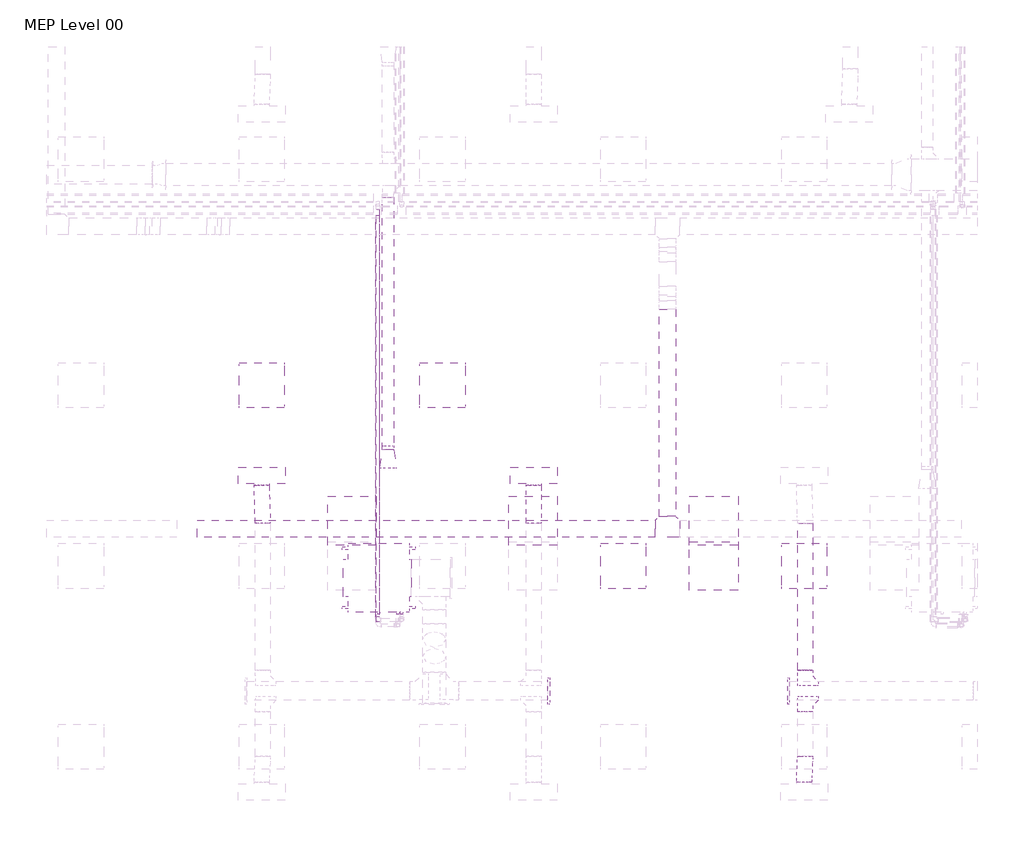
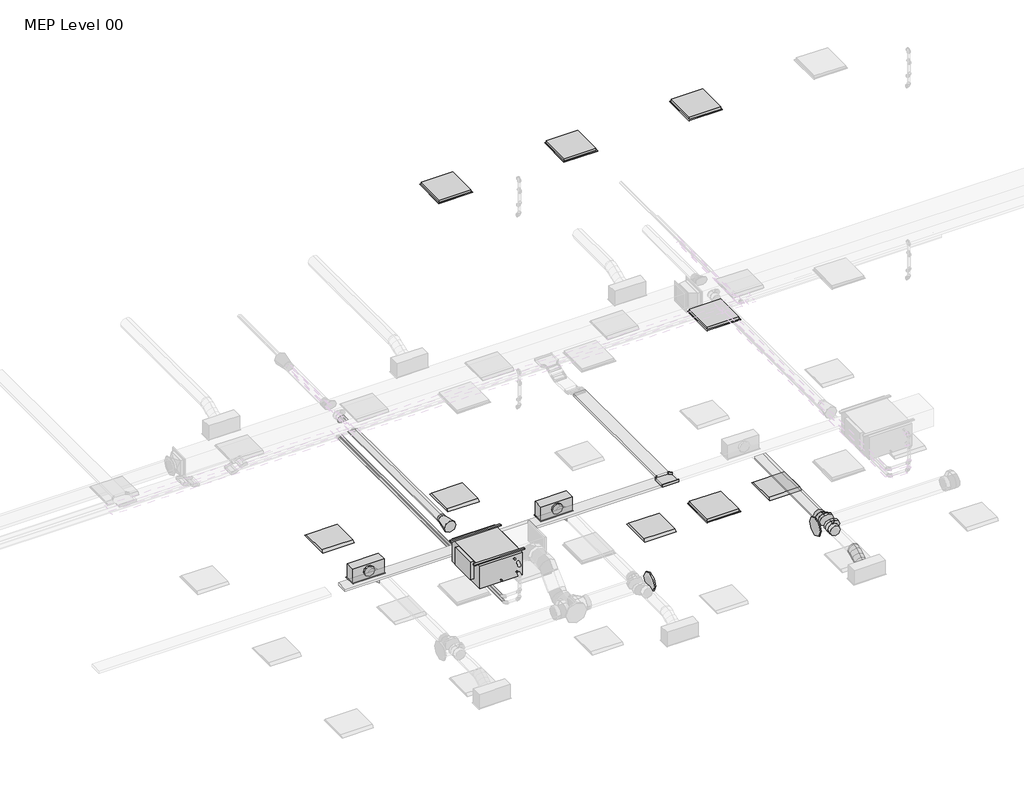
# One storey, part 9 of 33: 8 air terminals, 5 duct segments, 4 duct fittings, 4 light fixtures, 2 cable carrier segments, 2 pipe segments, 1 cable carrier fitting, 1 proxy.
"""IFC4 building model written with IfcOpenShell, lengths in millimetres."""

from ifc_helpers import new_model, si_unit, point, frame, frame_2d, origin, place, context, project, spatial, polyline, circle_curve, ellipse_curve, trimmed, segment, composite_curve, outline, extrude, transform, mapped, element, save
from ifc_brep_helpers import plane_surface, cylinder_surface, advanced_brep
from components import air_terminal_0d1c431e, return_grille_rectangular_hosted_standard_7b12617c, supply_diffuser_with_plenum_linear_slot_hosted_8c379eed, fan_coil_unit_ceiling_ducted_chw_376_lps_48d57206, cable_tray_horizontal_tee_standard_d76b5e15, dw144_round_blank_end_standard_9aa061e7, dw144_round_shoe_branch_slip_joint_standard_15a2edd8, light_fixture_600x600_230_1c7c1157, light_fixture_600x600_230_b730b5ca

model = new_model("IFC4")

# Units and contexts
model_context = context("Model", 3, world=origin())
ifc_project = project(units=[si_unit("LENGTHUNIT", "METRE", prefix="MILLI")], contexts=[model_context])

# Site, building, storey
site = spatial("IfcSite", under=ifc_project)
building = spatial("IfcBuilding", under=site)
storey = spatial("IfcBuildingStorey", under=building, Name="MEP Level 00", Elevation=0.0)

# Air terminals
placement = place(None, origin())
air_terminal_shape = air_terminal_0d1c431e(model_context)
element("IfcAirTerminal", 1, ObjectType="Supply_Bell_Mouth_Grille : Supply_Bell_Mouth_Grille", at=placement, inside=storey, context=model_context, shape_type="MappedRepresentation", body=[
    mapped(air_terminal_shape, transform((18039.0080407, 5510.2561435, 3135.0), x_axis=(0.0, -1.0, 0.0), y_axis=(1.0, 0.0, 0.0), z_axis=(0.0, 0.0, 1.0))),
])
return_grille_rectangular_hosted_standard_shape = return_grille_rectangular_hosted_standard_7b12617c(model_context)
element("IfcAirTerminal", 2, ObjectType="Return Grille - Rectangular - Hosted : Standard", at=placement, inside=storey, context=model_context, shape_type="MappedRepresentation", body=[
    mapped(return_grille_rectangular_hosted_standard_shape, transform((22362.2000027, 3963.2000004, 2800.0), x_axis=(0.0, -1.0, 0.0), y_axis=(-1.0, 0.0, 0.0), z_axis=(0.0, 0.0, -1.0))),
])
element("IfcAirTerminal", 3, ObjectType="Return Grille - Rectangular - Hosted : Standard", at=placement, inside=storey, context=model_context, shape_type="MappedRepresentation", body=[
    mapped(return_grille_rectangular_hosted_standard_shape, transform((22362.2000027, 3963.2000004, 6700.0), x_axis=(0.0, -1.0, 0.0), y_axis=(-1.0, 0.0, 0.0), z_axis=(0.0, 0.0, -1.0))),
])
element("IfcAirTerminal", 4, ObjectType="Return Grille - Rectangular - Hosted : Standard", at=placement, inside=storey, context=model_context, shape_type="MappedRepresentation", body=[
    mapped(return_grille_rectangular_hosted_standard_shape, transform((17562.2000027, 4563.2000004, 10600.0), x_axis=(1.0, 0.0, 0.0), y_axis=(0.0, -1.0, 0.0), z_axis=(0.0, 0.0, -1.0))),
])
element("IfcAirTerminal", 5, ObjectType="Return Grille - Rectangular - Hosted : Standard", at=placement, inside=storey, context=model_context, shape_type="MappedRepresentation", body=[
    mapped(return_grille_rectangular_hosted_standard_shape, transform((19962.2000027, 4563.2000004, 10600.0), x_axis=(1.0, 0.0, 0.0), y_axis=(0.0, -1.0, 0.0), z_axis=(0.0, 0.0, -1.0))),
])
element("IfcAirTerminal", 6, ObjectType="Return Grille - Rectangular - Hosted : Standard", at=placement, inside=storey, context=model_context, shape_type="MappedRepresentation", body=[
    mapped(return_grille_rectangular_hosted_standard_shape, transform((22362.2000027, 4563.2000004, 10600.0), x_axis=(0.0, -1.0, 0.0), y_axis=(-1.0, 0.0, 0.0), z_axis=(0.0, 0.0, -1.0))),
])
supply_diffuser_with_plenum_linear_slot_hosted_shape = supply_diffuser_with_plenum_linear_slot_hosted_8c379eed(model_context)
element("IfcAirTerminal", 7, ObjectType="Supply Diffuser with Plenum - Linear Slot - Hosted : 600mmx193.8mm-200 In Inlet  4-Slot", at=placement, inside=storey, context=model_context, shape_type="MappedRepresentation", body=[
    mapped(supply_diffuser_with_plenum_linear_slot_hosted_shape, transform((16362.2000027, 5163.2000004, 2800.0), x_axis=(-1.0, 0.0, 0.0), y_axis=(0.0, 1.0, 0.0), z_axis=(0.0, 0.0, -1.0))),
])
element("IfcAirTerminal", 8, ObjectType="Supply Diffuser with Plenum - Linear Slot - Hosted : 600mmx193.8mm-200 In Inlet  4-Slot", at=placement, inside=storey, context=model_context, shape_type="MappedRepresentation", body=[
    mapped(supply_diffuser_with_plenum_linear_slot_hosted_shape, transform((19973.9000022, 5163.2000004, 2800.0), x_axis=(-1.0, 0.0, 0.0), y_axis=(0.0, 1.0, 0.0), z_axis=(0.0, 0.0, -1.0))),
])

# Proxy
fan_coil_unit_ceiling_ducted_chw_376_lps_shape = fan_coil_unit_ceiling_ducted_chw_376_lps_48d57206(model_context)
element("IfcBuildingElementProxy", 9, Name="Fan Coil Unit - Ceiling Ducted - CHW : 376 LPS", ObjectType="Fan Coil Unit - Ceiling Ducted - CHW : 376 LPS", at=placement, inside=storey, context=model_context, shape_type="MappedRepresentation", body=[
    mapped(fan_coil_unit_ceiling_ducted_chw_376_lps_shape, transform((18321.2561025, 4263.2000004, 3222.3911538), x_axis=(0.0, -1.0, 0.0), y_axis=(1.0, 0.0, 0.0), z_axis=(0.0, 0.0, 1.0))),
])

# Cable carrier fitting
cable_tray_horizontal_tee_standard_shape = cable_tray_horizontal_tee_standard_d76b5e15(model_context)
element("IfcCableCarrierFitting", 10, ObjectType="Cable Tray Horizontal Tee : Standard", at=placement, inside=storey, context=model_context, shape_type="MappedRepresentation", body=[
    mapped(cable_tray_horizontal_tee_standard_shape, transform((21747.5028601, 4459.9103775, 3275.0), x_axis=(-1.0, 0.0, 0.0), y_axis=(0.0, -1.0, 0.0), z_axis=(0.0, 0.0, 1.0))),
])

# Cable carrier segments
element("IfcCableCarrierSegment", 11, ObjectType="Perforated Cable Tray", at=placement, inside=storey, context=model_context, shape_type="SweptSolid", body=[
    extrude(outline(polyline([(21585.0028601, 4572.4103775), (21585.0028601, 4347.4103775), (15505.0028601, 4347.4103775), (15505.0028601, 4572.4103775), (21585.0028601, 4572.4103775)])), frame((0.0, 0.0, 3250.0), z_axis=(0.0, 0.0, 1.0), x_axis=(1.0, 0.0, 0.0)), (0.0, 0.0, 1.0), 50.0),
])
element("IfcCableCarrierSegment", 12, ObjectType="Perforated Cable Tray", at=placement, inside=storey, context=model_context, shape_type="SweptSolid", body=[
    extrude(outline(polyline([(21635.0028601, 7370.2703489), (21860.0028601, 7370.2703489), (21860.0028601, 4622.4103775), (21635.0028601, 4622.4103775), (21635.0028601, 7370.2703489)])), frame((0.0, 0.0, 3250.0), z_axis=(0.0, 0.0, 1.0), x_axis=(1.0, 0.0, 0.0)), (0.0, 0.0, 1.0), 50.0),
])

# Duct fittings
dw144_round_blank_end_standard_shape = dw144_round_blank_end_standard_9aa061e7(model_context)
element("IfcDuctFitting", 13, ObjectType="DW144 Round Blank End : Standard", at=placement, inside=storey, context=model_context, shape_type="MappedRepresentation", body=[
    mapped(dw144_round_blank_end_standard_shape, transform((20161.4561025, 2306.5018192, 3072.2088531), x_axis=(1.0, 0.0, 0.0), y_axis=(0.0, 1.0, 0.0), z_axis=(0.0, 0.0, 1.0))),
])
element("IfcDuctFitting", 14, ObjectType="DW144 Round Blank End : Standard", at=placement, inside=storey, context=model_context, shape_type="MappedRepresentation", body=[
    mapped(dw144_round_blank_end_standard_shape, transform((23361.4561025, 2306.5018192, 3072.2088531), x_axis=(-1.0, 0.0, 0.0), y_axis=(0.0, -1.0, 0.0), z_axis=(0.0, 0.0, 1.0))),
])
dw144_round_shoe_branch_slip_joint_standard_shape = dw144_round_shoe_branch_slip_joint_standard_15a2edd8(model_context)
element("IfcDuctFitting", 15, ObjectType="DW144 Round Shoe Branch - Slip Joint : Standard", at=placement, inside=storey, context=model_context, shape_type="MappedRepresentation", body=[
    mapped(dw144_round_shoe_branch_slip_joint_standard_shape, transform((23573.9000022, 2181.5018192, 3072.2088531), x_axis=(0.0, -1.0, 0.0), y_axis=(-1.0, 0.0, 0.0), z_axis=(0.0, 0.0, -1.0))),
])
element("IfcDuctFitting", 16, ObjectType="DW144 Round Shoe Branch - Slip Joint : Standard", at=placement, inside=storey, context=model_context, shape_type="MappedRepresentation", body=[
    mapped(dw144_round_shoe_branch_slip_joint_standard_shape, transform((23573.9000022, 2431.5018192, 3072.2088531), x_axis=(0.0, 1.0, 0.0), y_axis=(-1.0, 0.0, 0.0), z_axis=(0.0, 0.0, 1.0))),
])

# Duct segments
element("IfcDuctSegment", 17, ObjectType="DW144 Segmented Bend / Shoe Branch", at=placement, inside=storey, context=model_context, shape_type="SweptSolid", body=[
    extrude(outline(composite_curve([segment(trimmed(circle_curve(frame_2d((3072.2088531, 23573.9000022)), 100.0), [point((3072.2088531, 23673.9000022))], [point((3172.2088531, 23573.9000022))], False, "CARTESIAN"), True, "CONTINUOUS"), segment(trimmed(circle_curve(frame_2d((3072.2088531, 23573.9000022)), 100.0), [point((3172.2088531, 23573.9000022))], [point((3072.2088531, 23473.9000022))], False, "CARTESIAN"), True, "CONTINUOUS"), segment(trimmed(circle_curve(frame_2d((3072.2088531, 23573.9000022)), 100.0), [point((3072.2088531, 23473.9000022))], [point((2972.2088531, 23573.9000022))], False, "CARTESIAN"), True, "CONTINUOUS"), segment(trimmed(circle_curve(frame_2d((3072.2088531, 23573.9000022)), 100.0), [point((2972.2088531, 23573.9000022))], [point((3072.2088531, 23673.9000022))], False, "CARTESIAN"), True, "CONTINUOUS")], self_intersect=False)), frame((0.0, 2581.5018192, 0.0), z_axis=(0.0, 1.0, 0.0), x_axis=(0.0, 0.0, 1.0)), (0.0, 0.0, 1.0), 1950.0),
])
element("IfcDuctSegment", 18, ObjectType="DW144 Segmented Bend / Shoe Branch", at=placement, inside=storey, context=model_context, shape_type="SweptSolid", body=[
    extrude(outline(composite_curve([segment(trimmed(circle_curve(frame_2d((3135.0, 18039.0080407)), 75.0), [point((3135.0, 17964.0080407))], [point((3060.0, 18039.0080407))], False, "CARTESIAN"), True, "CONTINUOUS"), segment(trimmed(circle_curve(frame_2d((3135.0, 18039.0080407)), 75.0), [point((3060.0, 18039.0080407))], [point((3135.0, 18114.0080407))], False, "CARTESIAN"), True, "CONTINUOUS"), segment(trimmed(circle_curve(frame_2d((3135.0, 18039.0080407)), 75.0), [point((3135.0, 18114.0080407))], [point((3210.0, 18039.0080407))], False, "CARTESIAN"), True, "CONTINUOUS"), segment(trimmed(circle_curve(frame_2d((3135.0, 18039.0080407)), 75.0), [point((3210.0, 18039.0080407))], [point((3135.0, 17964.0080407))], False, "CARTESIAN"), True, "CONTINUOUS")], self_intersect=False)), frame((0.0, 5510.2561435, 0.0), z_axis=(0.0, 1.0, 0.0), x_axis=(0.0, 0.0, 1.0)), (0.0, 0.0, 1.0), 3349.1601689),
])
element("IfcDuctSegment", 19, ObjectType="Flex - Round", at=placement, inside=storey, context=model_context, shape_type="AdvancedBrep", body=[
    advanced_brep(
    [(16273.9000022, 4531.5018192, 3072.2088531), (16373.9000022, 4531.5018192, 2972.2088531), (16473.9000022, 4531.5018192, 3072.2088531), (16373.9000022, 4531.5018192, 3172.2088531), (16273.9000022, 4545.0398748, 3072.2088531), (16373.9000022, 4537.729612, 2972.2088531), (16473.9000022, 4546.6519942, 3072.2088531), (16373.9000022, 4553.962257, 3172.2088531), (16262.2000027, 5034.3000004, 2954.4), (16362.2000027, 5034.3000004, 3054.4), (16462.2000027, 5034.3000004, 2954.4), (16362.2000027, 5034.3000004, 2854.4), (16272.0969471, 4656.1396088, 3054.0536514), (16372.3243089, 4634.8198875, 2956.3429867), (16472.0468075, 4660.8412095, 3053.5487883), (16371.8194457, 4682.1609309, 3151.2594529), (16268.0984043, 4779.8283707, 3013.7917909), (16368.5373668, 4751.9631047, 2918.2117629), (16468.0016006, 4785.9734489, 3012.8170622), (16367.5626381, 4813.8387149, 3108.3970903), (16264.0531974, 4904.9606101, 2973.0600649), (16364.2805591, 4883.6408888, 2875.3494002), (16464.0030578, 4909.6622108, 2972.5552017), (16363.775696, 4930.9819322, 3070.2658664), (16262.2000027, 5019.1498254, 2954.4), (16362.2000027, 5011.8395627, 2854.4), (16462.2000027, 5020.7619448, 2954.4), (16362.2000027, 5028.0722076, 3054.4)],
    [
        (0, 1, circle_curve(frame((16373.9000022, 4531.5018192, 3072.2088531), z_axis=(0.0, -1.0, 0.0), x_axis=(-1.0, 0.0, 0.0)), 100.0)),
        (1, 2, circle_curve(frame((16373.9000022, 4531.5018192, 3072.2088531), z_axis=(0.0, -1.0, 0.0), x_axis=(-1.0, 0.0, 0.0)), 100.0)),
        (2, 3, circle_curve(frame((16373.9000022, 4531.5018192, 3072.2088531), z_axis=(0.0, -1.0, 0.0), x_axis=(-1.0, 0.0, 0.0)), 100.0)),
        (3, 0, circle_curve(frame((16373.9000022, 4531.5018192, 3072.2088531), z_axis=(0.0, -1.0, 0.0), x_axis=(-1.0, 0.0, 0.0)), 100.0)),
        (0, 4),
        (4, 5, ellipse_curve(frame((16373.9000022, 4545.8459345, 3072.2088531), z_axis=(0.008033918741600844, -0.9966902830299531, 0.08089459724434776), x_axis=(-0.09850014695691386, -0.08129255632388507, -0.9918110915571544)), 100.3320708, 100.0)),
        (5, 1),
        (5, 6, ellipse_curve(frame((16373.9000022, 4545.8459345, 3072.2088531), z_axis=(0.008033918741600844, -0.9966902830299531, 0.08089459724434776), x_axis=(-0.09850014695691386, -0.08129255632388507, -0.9918110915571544)), 100.3320708, 100.0)),
        (6, 2),
        (6, 7, ellipse_curve(frame((16373.9000022, 4545.8459345, 3072.2088531), z_axis=(0.008033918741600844, -0.9966902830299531, 0.08089459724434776), x_axis=(-0.09850014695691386, -0.08129255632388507, -0.9918110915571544)), 100.3320708, 100.0)),
        (7, 3),
        (7, 4, ellipse_curve(frame((16373.9000022, 4545.8459345, 3072.2088531), z_axis=(0.008033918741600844, -0.9966902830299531, 0.08089459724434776), x_axis=(-0.09850014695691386, -0.08129255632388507, -0.9918110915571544)), 100.3320708, 100.0)),
        (8, 9, circle_curve(frame((16362.2000027, 5034.3000004, 2954.4), z_axis=(0.0, 1.0, 0.0), x_axis=(-1.0, 0.0, 0.0)), 100.0)),
        (9, 10, circle_curve(frame((16362.2000027, 5034.3000004, 2954.4), z_axis=(0.0, 1.0, 0.0), x_axis=(-1.0, 0.0, 0.0)), 100.0)),
        (10, 11, circle_curve(frame((16362.2000027, 5034.3000004, 2954.4), z_axis=(0.0, 1.0, 0.0), x_axis=(-1.0, 0.0, 0.0)), 100.0)),
        (11, 8, circle_curve(frame((16362.2000027, 5034.3000004, 2954.4), z_axis=(0.0, 1.0, 0.0), x_axis=(-1.0, 0.0, 0.0)), 100.0)),
        (4, 12),
        (12, 13, ellipse_curve(frame((16372.0718773, 4658.4904092, 3053.8012198), z_axis=(0.023438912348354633, -0.9714680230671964, 0.23600952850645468), x_axis=(-0.09600750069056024, -0.237170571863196, -0.9667123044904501)), 100.2947714, 100.0)),
        (13, 5),
        (13, 14, ellipse_curve(frame((16372.0718773, 4658.4904092, 3053.8012198), z_axis=(0.023438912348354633, -0.9714680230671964, 0.23600952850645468), x_axis=(-0.09600750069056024, -0.237170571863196, -0.9667123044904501)), 100.2947714, 100.0)),
        (14, 6),
        (14, 15, ellipse_curve(frame((16372.0718773, 4658.4904092, 3053.8012198), z_axis=(0.023438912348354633, -0.9714680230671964, 0.23600952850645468), x_axis=(-0.09600750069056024, -0.237170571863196, -0.9667123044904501)), 100.2947714, 100.0)),
        (15, 7),
        (15, 12, ellipse_curve(frame((16372.0718773, 4658.4904092, 3053.8012198), z_axis=(0.023438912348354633, -0.9714680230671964, 0.23600952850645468), x_axis=(-0.09600750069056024, -0.237170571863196, -0.9667123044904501)), 100.2947714, 100.0)),
        (12, 16),
        (16, 17, circle_curve(frame((16368.0500024, 4782.9009098, 3013.3044266), z_axis=(0.03072539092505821, -0.9504426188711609, 0.3093780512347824), x_axis=(-0.999515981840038, -0.030725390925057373, 0.0048736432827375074)), 100.0)),
        (17, 13),
        (17, 18, circle_curve(frame((16368.0500024, 4782.9009098, 3013.3044266), z_axis=(0.03072539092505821, -0.9504426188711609, 0.3093780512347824), x_axis=(-0.999515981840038, -0.030725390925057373, 0.0048736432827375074)), 100.0)),
        (18, 14),
        (18, 19, circle_curve(frame((16368.0500024, 4782.9009098, 3013.3044266), z_axis=(0.03072539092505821, -0.9504426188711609, 0.3093780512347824), x_axis=(-0.999515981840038, -0.030725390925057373, 0.0048736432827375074)), 100.0)),
        (19, 15),
        (19, 16, circle_curve(frame((16368.0500024, 4782.9009098, 3013.3044266), z_axis=(0.03072539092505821, -0.9504426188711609, 0.3093780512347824), x_axis=(-0.999515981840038, -0.030725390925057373, 0.0048736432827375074)), 100.0)),
        (16, 20),
        (20, 21, ellipse_curve(frame((16364.0281276, 4907.3114105, 2972.8076333), z_axis=(0.023438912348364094, -0.9714680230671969, 0.23600952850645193), x_axis=(0.0960075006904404, 0.23717057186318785, 0.966712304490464)), 100.2947714, 100.0)),
        (21, 17),
        (21, 22, ellipse_curve(frame((16364.0281276, 4907.3114105, 2972.8076333), z_axis=(0.023438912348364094, -0.9714680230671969, 0.23600952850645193), x_axis=(0.0960075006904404, 0.23717057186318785, 0.966712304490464)), 100.2947714, 100.0)),
        (22, 18),
        (22, 23, ellipse_curve(frame((16364.0281276, 4907.3114105, 2972.8076333), z_axis=(0.023438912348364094, -0.9714680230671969, 0.23600952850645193), x_axis=(0.0960075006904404, 0.23717057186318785, 0.966712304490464)), 100.2947714, 100.0)),
        (23, 19),
        (23, 20, ellipse_curve(frame((16364.0281276, 4907.3114105, 2972.8076333), z_axis=(0.023438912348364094, -0.9714680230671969, 0.23600952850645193), x_axis=(0.0960075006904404, 0.23717057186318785, 0.966712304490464)), 100.2947714, 100.0)),
        (20, 24),
        (24, 25, ellipse_curve(frame((16362.2000027, 5019.9558851, 2954.4), z_axis=(0.008033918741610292, -0.9966902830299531, 0.08089459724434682), x_axis=(0.09850014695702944, 0.0812925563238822, 0.9918110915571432)), 100.3320708, 100.0)),
        (25, 21),
        (25, 26, ellipse_curve(frame((16362.2000027, 5019.9558851, 2954.4), z_axis=(0.008033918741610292, -0.9966902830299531, 0.08089459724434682), x_axis=(0.09850014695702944, 0.0812925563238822, 0.9918110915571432)), 100.3320708, 100.0)),
        (26, 22),
        (26, 27, ellipse_curve(frame((16362.2000027, 5019.9558851, 2954.4), z_axis=(0.008033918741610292, -0.9966902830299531, 0.08089459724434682), x_axis=(0.09850014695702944, 0.0812925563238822, 0.9918110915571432)), 100.3320708, 100.0)),
        (27, 23),
        (27, 24, ellipse_curve(frame((16362.2000027, 5019.9558851, 2954.4), z_axis=(0.008033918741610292, -0.9966902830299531, 0.08089459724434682), x_axis=(0.09850014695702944, 0.0812925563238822, 0.9918110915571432)), 100.3320708, 100.0)),
        (24, 8),
        (11, 25),
        (10, 26),
        (9, 27),
    ],
    [
        plane_surface(frame((16273.9000022, 4531.5018192, 3072.2088531), z_axis=(0.0, -1.0, 0.0), x_axis=(0.0, 0.0, 1.0))),
        cylinder_surface(frame((16373.9000022, 4531.5018192, 3072.2088531), z_axis=(0.0, -1.0, 0.0), x_axis=(-1.0, 0.0, 0.0)), 100.0),
        plane_surface(frame((16262.2000027, 5034.3000004, 2954.4), z_axis=(0.0, 1.0, 0.0), x_axis=(0.0, 0.0, 1.0))),
        cylinder_surface(frame((16373.9000022, 4545.8459345, 3072.2088531), z_axis=(0.01601465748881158, -0.9867830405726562, 0.16125371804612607), x_axis=(-0.9998709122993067, -0.01601465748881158, 0.0012998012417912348)), 100.0),
        cylinder_surface(frame((16372.0718773, 4658.4904092, 3053.8012198), z_axis=(0.03072539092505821, -0.9504426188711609, 0.3093780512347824), x_axis=(-0.999515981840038, -0.030725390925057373, 0.0048736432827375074)), 100.0),
        cylinder_surface(frame((16368.0500024, 4782.9009098, 3013.3044266), z_axis=(0.030725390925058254, -0.9504426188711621, 0.30937805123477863), x_axis=(-0.999515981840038, -0.0307253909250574, 0.004873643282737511)), 100.0),
        cylinder_surface(frame((16364.0281276, 4907.3114105, 2972.8076333), z_axis=(0.016014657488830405, -0.9867830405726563, 0.16125371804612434), x_axis=(-0.9998709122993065, -0.016014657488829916, 0.0012998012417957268)), 100.0),
        cylinder_surface(frame((16362.2000027, 5019.9558851, 2954.4), z_axis=(0.0, -1.0, 0.0), x_axis=(-1.0, 0.0, 0.0)), 100.0),
    ],
    [
        (0, [[1, 2, 3, 4]]),
        (1, [[-1, 5, 6, 7]]),
        (1, [[-2, -7, 8, 9]]),
        (1, [[-3, -9, 10, 11]]),
        (1, [[-4, -11, 12, -5]]),
        (2, [[13, 14, 15, 16]]),
        (3, [[-6, 17, 18, 19]]),
        (3, [[-8, -19, 20, 21]]),
        (3, [[-10, -21, 22, 23]]),
        (3, [[-12, -23, 24, -17]]),
        (4, [[-18, 25, 26, 27]]),
        (4, [[-20, -27, 28, 29]]),
        (4, [[-22, -29, 30, 31]]),
        (4, [[-24, -31, 32, -25]]),
        (5, [[-26, 33, 34, 35]]),
        (5, [[-28, -35, 36, 37]]),
        (5, [[-30, -37, 38, 39]]),
        (5, [[-32, -39, 40, -33]]),
        (6, [[-34, 41, 42, 43]]),
        (6, [[-36, -43, 44, 45]]),
        (6, [[-38, -45, 46, 47]]),
        (6, [[-40, -47, 48, -41]]),
        (7, [[-42, 49, -16, 50]]),
        (7, [[-44, -50, -15, 51]]),
        (7, [[-46, -51, -14, 52]]),
        (7, [[-48, -52, -13, -49]]),
    ],
),
])
element("IfcDuctSegment", 20, ObjectType="Flex - Round", at=placement, inside=storey, context=model_context, shape_type="AdvancedBrep", body=[
    advanced_brep(
    [(19873.9000022, 4531.5018192, 3072.2088531), (19973.9000022, 4531.5018192, 2972.2088531), (20073.9000022, 4531.5018192, 3072.2088531), (19973.9000022, 4531.5018192, 3172.2088531), (19873.9000022, 4545.8487649, 3072.2088531), (19973.9000022, 4537.7308336, 2972.2088531), (20073.9000022, 4545.8487649, 3072.2088531), (19973.9000022, 4553.9666963, 3172.2088531), (19873.9000022, 5034.3000004, 2954.4), (19973.9000022, 5034.3000004, 3054.4), (20073.9000022, 5034.3000004, 2954.4), (19973.9000022, 5034.3000004, 2854.4), (19873.9000022, 4658.4779853, 3053.8012198), (19973.9000022, 4634.8007072, 2956.3441723), (20073.9000022, 4658.4779853, 3053.8012198), (19973.9000022, 4682.1552634, 3151.2582674), (19873.9000022, 4782.9009098, 3013.3044266), (19973.9000022, 4751.9512855, 2918.21436), (20073.9000022, 4782.9009098, 3013.3044266), (19973.9000022, 4813.8505341, 3108.3944931), (19873.9000022, 4907.3238344, 2972.8076333), (19973.9000022, 4883.6465563, 2875.3505857), (20073.9000022, 4907.3238344, 2972.8076333), (19973.9000022, 4931.0011125, 3070.2646809), (19873.9000022, 5019.9530547, 2954.4), (19973.9000022, 5011.8351234, 2854.4), (20073.9000022, 5019.9530547, 2954.4), (19973.9000022, 5028.070986, 3054.4)],
    [
        (0, 1, circle_curve(frame((19973.9000022, 4531.5018192, 3072.2088531), z_axis=(0.0, -1.0, 0.0), x_axis=(-1.0, 0.0, 0.0)), 100.0)),
        (1, 2, circle_curve(frame((19973.9000022, 4531.5018192, 3072.2088531), z_axis=(0.0, -1.0, 0.0), x_axis=(-1.0, 0.0, 0.0)), 100.0)),
        (2, 3, circle_curve(frame((19973.9000022, 4531.5018192, 3072.2088531), z_axis=(0.0, -1.0, 0.0), x_axis=(-1.0, 0.0, 0.0)), 100.0)),
        (3, 0, circle_curve(frame((19973.9000022, 4531.5018192, 3072.2088531), z_axis=(0.0, -1.0, 0.0), x_axis=(-1.0, 0.0, 0.0)), 100.0)),
        (0, 4),
        (4, 5, ellipse_curve(frame((19973.9000022, 4545.8487649, 3072.2088531), z_axis=(0.0, -0.9967211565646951, 0.08091313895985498), x_axis=(0.0, -0.08091313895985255, -0.9967211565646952)), 100.328963, 100.0)),
        (5, 1),
        (5, 6, ellipse_curve(frame((19973.9000022, 4545.8487649, 3072.2088531), z_axis=(0.0, -0.9967211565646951, 0.08091313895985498), x_axis=(0.0, -0.08091313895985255, -0.9967211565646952)), 100.328963, 100.0)),
        (6, 2),
        (6, 7, ellipse_curve(frame((19973.9000022, 4545.8487649, 3072.2088531), z_axis=(0.0, -0.9967211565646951, 0.08091313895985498), x_axis=(0.0, -0.08091313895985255, -0.9967211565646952)), 100.328963, 100.0)),
        (7, 3),
        (7, 4, ellipse_curve(frame((19973.9000022, 4545.8487649, 3072.2088531), z_axis=(0.0, -0.9967211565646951, 0.08091313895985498), x_axis=(0.0, -0.08091313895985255, -0.9967211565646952)), 100.328963, 100.0)),
        (8, 9, circle_curve(frame((19973.9000022, 5034.3000004, 2954.4), z_axis=(0.0, 1.0, 0.0), x_axis=(-1.0, 0.0, 0.0)), 100.0)),
        (9, 10, circle_curve(frame((19973.9000022, 5034.3000004, 2954.4), z_axis=(0.0, 1.0, 0.0), x_axis=(-1.0, 0.0, 0.0)), 100.0)),
        (10, 11, circle_curve(frame((19973.9000022, 5034.3000004, 2954.4), z_axis=(0.0, 1.0, 0.0), x_axis=(-1.0, 0.0, 0.0)), 100.0)),
        (11, 8, circle_curve(frame((19973.9000022, 5034.3000004, 2954.4), z_axis=(0.0, 1.0, 0.0), x_axis=(-1.0, 0.0, 0.0)), 100.0)),
        (4, 12),
        (12, 13, ellipse_curve(frame((19973.9000022, 4658.4779853, 3053.8012198), z_axis=(0.0, -0.9717328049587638, 0.23608336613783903), x_axis=(0.0, -0.23608336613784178, -0.9717328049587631)), 100.2920217, 100.0)),
        (13, 5),
        (13, 14, ellipse_curve(frame((19973.9000022, 4658.4779853, 3053.8012198), z_axis=(0.0, -0.9717328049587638, 0.23608336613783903), x_axis=(0.0, -0.23608336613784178, -0.9717328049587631)), 100.2920217, 100.0)),
        (14, 6),
        (14, 15, ellipse_curve(frame((19973.9000022, 4658.4779853, 3053.8012198), z_axis=(0.0, -0.9717328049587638, 0.23608336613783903), x_axis=(0.0, -0.23608336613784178, -0.9717328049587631)), 100.2920217, 100.0)),
        (15, 7),
        (15, 12, ellipse_curve(frame((19973.9000022, 4658.4779853, 3053.8012198), z_axis=(0.0, -0.9717328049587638, 0.23608336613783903), x_axis=(0.0, -0.23608336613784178, -0.9717328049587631)), 100.2920217, 100.0)),
        (12, 16),
        (16, 17, circle_curve(frame((19973.9000022, 4782.9009098, 3013.3044266), z_axis=(0.0, -0.9509006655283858, 0.3094962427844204), x_axis=(-1.0, 0.0, 0.0)), 100.0)),
        (17, 13),
        (17, 18, circle_curve(frame((19973.9000022, 4782.9009098, 3013.3044266), z_axis=(0.0, -0.9509006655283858, 0.3094962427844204), x_axis=(-1.0, 0.0, 0.0)), 100.0)),
        (18, 14),
        (18, 19, circle_curve(frame((19973.9000022, 4782.9009098, 3013.3044266), z_axis=(0.0, -0.9509006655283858, 0.3094962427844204), x_axis=(-1.0, 0.0, 0.0)), 100.0)),
        (19, 15),
        (19, 16, circle_curve(frame((19973.9000022, 4782.9009098, 3013.3044266), z_axis=(0.0, -0.9509006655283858, 0.3094962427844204), x_axis=(-1.0, 0.0, 0.0)), 100.0)),
        (16, 20),
        (20, 21, ellipse_curve(frame((19973.9000022, 4907.3238344, 2972.8076333), z_axis=(0.0, -0.9717328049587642, 0.236083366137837), x_axis=(0.0, 0.23608336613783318, 0.9717328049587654)), 100.2920217, 100.0)),
        (21, 17),
        (21, 22, ellipse_curve(frame((19973.9000022, 4907.3238344, 2972.8076333), z_axis=(0.0, -0.9717328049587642, 0.236083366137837), x_axis=(0.0, 0.23608336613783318, 0.9717328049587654)), 100.2920217, 100.0)),
        (22, 18),
        (22, 23, ellipse_curve(frame((19973.9000022, 4907.3238344, 2972.8076333), z_axis=(0.0, -0.9717328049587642, 0.236083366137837), x_axis=(0.0, 0.23608336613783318, 0.9717328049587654)), 100.2920217, 100.0)),
        (23, 19),
        (23, 20, ellipse_curve(frame((19973.9000022, 4907.3238344, 2972.8076333), z_axis=(0.0, -0.9717328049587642, 0.236083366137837), x_axis=(0.0, 0.23608336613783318, 0.9717328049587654)), 100.2920217, 100.0)),
        (20, 24),
        (24, 25, ellipse_curve(frame((19973.9000022, 5019.9530547, 2954.4), z_axis=(0.0, -0.9967211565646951, 0.08091313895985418), x_axis=(0.0, 0.08091313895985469, 0.9967211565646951)), 100.328963, 100.0)),
        (25, 21),
        (25, 26, ellipse_curve(frame((19973.9000022, 5019.9530547, 2954.4), z_axis=(0.0, -0.9967211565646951, 0.08091313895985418), x_axis=(0.0, 0.08091313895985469, 0.9967211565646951)), 100.328963, 100.0)),
        (26, 22),
        (26, 27, ellipse_curve(frame((19973.9000022, 5019.9530547, 2954.4), z_axis=(0.0, -0.9967211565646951, 0.08091313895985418), x_axis=(0.0, 0.08091313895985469, 0.9967211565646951)), 100.328963, 100.0)),
        (27, 23),
        (27, 24, ellipse_curve(frame((19973.9000022, 5019.9530547, 2954.4), z_axis=(0.0, -0.9967211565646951, 0.08091313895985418), x_axis=(0.0, 0.08091313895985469, 0.9967211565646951)), 100.328963, 100.0)),
        (24, 8),
        (11, 25),
        (10, 26),
        (9, 27),
    ],
    [
        plane_surface(frame((19873.9000022, 4531.5018192, 3072.2088531), z_axis=(0.0, -1.0, 0.0), x_axis=(0.0, 0.0, 1.0))),
        cylinder_surface(frame((19973.9000022, 4531.5018192, 3072.2088531), z_axis=(0.0, -1.0, 0.0), x_axis=(-1.0, 0.0, 0.0)), 100.0),
        plane_surface(frame((19873.9000022, 5034.3000004, 2954.4), z_axis=(0.0, 1.0, 0.0), x_axis=(0.0, 0.0, 1.0))),
        cylinder_surface(frame((19973.9000022, 4545.8487649, 3072.2088531), z_axis=(0.0, -0.9869061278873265, 0.16129567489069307), x_axis=(-1.0, 0.0, 0.0)), 100.0),
        cylinder_surface(frame((19973.9000022, 4658.4779853, 3053.8012198), z_axis=(0.0, -0.9509006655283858, 0.3094962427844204), x_axis=(-1.0, 0.0, 0.0)), 100.0),
        cylinder_surface(frame((19973.9000022, 4782.9009098, 3013.3044266), z_axis=(0.0, -0.9509006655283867, 0.30949624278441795), x_axis=(-1.0, 0.0, 0.0)), 100.0),
        cylinder_surface(frame((19973.9000022, 4907.3238344, 2972.8076333), z_axis=(0.0, -0.9869061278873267, 0.16129567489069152), x_axis=(-1.0, 0.0, 0.0)), 100.0),
        cylinder_surface(frame((19973.9000022, 5019.9530547, 2954.4), z_axis=(0.0, -1.0, 0.0), x_axis=(-1.0, 0.0, 0.0)), 100.0),
    ],
    [
        (0, [[1, 2, 3, 4]]),
        (1, [[-1, 5, 6, 7]]),
        (1, [[-2, -7, 8, 9]]),
        (1, [[-3, -9, 10, 11]]),
        (1, [[-4, -11, 12, -5]]),
        (2, [[13, 14, 15, 16]]),
        (3, [[-6, 17, 18, 19]]),
        (3, [[-8, -19, 20, 21]]),
        (3, [[-10, -21, 22, 23]]),
        (3, [[-12, -23, 24, -17]]),
        (4, [[-18, 25, 26, 27]]),
        (4, [[-20, -27, 28, 29]]),
        (4, [[-22, -29, 30, 31]]),
        (4, [[-24, -31, 32, -25]]),
        (5, [[-26, 33, 34, 35]]),
        (5, [[-28, -35, 36, 37]]),
        (5, [[-30, -37, 38, 39]]),
        (5, [[-32, -39, 40, -33]]),
        (6, [[-34, 41, 42, 43]]),
        (6, [[-36, -43, 44, 45]]),
        (6, [[-38, -45, 46, 47]]),
        (6, [[-40, -47, 48, -41]]),
        (7, [[-42, 49, -16, 50]]),
        (7, [[-44, -50, -15, 51]]),
        (7, [[-46, -51, -14, 52]]),
        (7, [[-48, -52, -13, -49]]),
    ],
),
])
element("IfcDuctSegment", 21, ObjectType="Flex - Round", at=placement, inside=storey, context=model_context, shape_type="AdvancedBrep", body=[
    advanced_brep(
    [(23673.9000022, 1441.5018192, 3072.2088531), (23573.9000022, 1441.5018192, 2972.2088531), (23473.9000022, 1441.5018192, 3072.2088531), (23573.9000022, 1441.5018192, 3172.2088531), (23673.9000022, 1419.9886644, 3072.2088531), (23573.9000022, 1434.4041273, 2972.2088531), (23473.9000022, 1422.5932881, 3072.2088531), (23573.9000022, 1408.1778252, 3172.2088531), (23662.2000027, 1092.1000004, 2954.4), (23562.2000027, 1092.1000004, 3054.4), (23462.2000027, 1092.1000004, 2954.4), (23562.2000027, 1092.1000004, 2854.4), (23672.0154345, 1348.8904029, 3053.2328893), (23572.6402079, 1386.8764181, 2959.5238159), (23472.1283201, 1355.7538157, 3054.3695504), (23571.5035467, 1317.7678004, 3148.0786237), (23667.9552415, 1262.5544078, 3012.3502664), (23569.0041626, 1309.5595036, 2922.9119919), (23468.1447633, 1271.0474118, 3014.2585867), (23567.0958423, 1224.0423161, 3103.6968612), (23663.9716847, 1177.8480039, 2972.2393027), (23564.5964582, 1215.8340192, 2878.5302294), (23464.0845704, 1184.7114168, 2973.3759639), (23563.459797, 1146.7254015, 3067.0850372), (23662.2000027, 1111.0085316, 2954.4), (23562.2000027, 1125.4239944, 2854.4), (23462.2000027, 1113.6131552, 2954.4), (23562.2000027, 1099.1976924, 3054.4)],
    [
        (0, 1, circle_curve(frame((23573.9000022, 1441.5018192, 3072.2088531), z_axis=(0.0, 1.0, 0.0), x_axis=(1.0, 0.0, 0.0)), 100.0)),
        (1, 2, circle_curve(frame((23573.9000022, 1441.5018192, 3072.2088531), z_axis=(0.0, 1.0, 0.0), x_axis=(1.0, 0.0, 0.0)), 100.0)),
        (2, 3, circle_curve(frame((23573.9000022, 1441.5018192, 3072.2088531), z_axis=(0.0, 1.0, 0.0), x_axis=(1.0, 0.0, 0.0)), 100.0)),
        (3, 0, circle_curve(frame((23573.9000022, 1441.5018192, 3072.2088531), z_axis=(0.0, 1.0, 0.0), x_axis=(1.0, 0.0, 0.0)), 100.0)),
        (0, 4),
        (4, 5, ellipse_curve(frame((23573.9000022, 1421.2909763, 3072.2088531), z_axis=(0.012911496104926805, 0.991428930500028, 0.13000757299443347), x_axis=(-0.0979801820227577, 0.13064714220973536, -0.986575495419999)), 100.8645168, 100.0)),
        (5, 1),
        (5, 6, ellipse_curve(frame((23573.9000022, 1421.2909763, 3072.2088531), z_axis=(0.012911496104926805, 0.991428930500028, 0.13000757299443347), x_axis=(-0.0979801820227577, 0.13064714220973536, -0.986575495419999)), 100.8645168, 100.0)),
        (6, 2),
        (6, 7, ellipse_curve(frame((23573.9000022, 1421.2909763, 3072.2088531), z_axis=(0.012911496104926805, 0.991428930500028, 0.13000757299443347), x_axis=(-0.0979801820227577, 0.13064714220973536, -0.986575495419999)), 100.8645168, 100.0)),
        (7, 3),
        (7, 4, ellipse_curve(frame((23573.9000022, 1421.2909763, 3072.2088531), z_axis=(0.012911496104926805, 0.991428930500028, 0.13000757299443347), x_axis=(-0.0979801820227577, 0.13064714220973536, -0.986575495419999)), 100.8645168, 100.0)),
        (8, 9, circle_curve(frame((23562.2000027, 1092.1000004, 2954.4), z_axis=(0.0, -1.0, 0.0), x_axis=(1.0, 0.0, 0.0)), 100.0)),
        (9, 10, circle_curve(frame((23562.2000027, 1092.1000004, 2954.4), z_axis=(0.0, -1.0, 0.0), x_axis=(1.0, 0.0, 0.0)), 100.0)),
        (10, 11, circle_curve(frame((23562.2000027, 1092.1000004, 2954.4), z_axis=(0.0, -1.0, 0.0), x_axis=(1.0, 0.0, 0.0)), 100.0)),
        (11, 8, circle_curve(frame((23562.2000027, 1092.1000004, 2954.4), z_axis=(0.0, -1.0, 0.0), x_axis=(1.0, 0.0, 0.0)), 100.0)),
        (4, 12),
        (12, 13, ellipse_curve(frame((23572.0718773, 1352.3221093, 3053.8012198), z_axis=(0.03417490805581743, 0.9383065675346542, 0.34411169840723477), x_axis=(-0.09273024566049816, 0.34580454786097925, -0.9337131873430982)), 100.4159667, 100.0)),
        (13, 5),
        (13, 14, ellipse_curve(frame((23572.0718773, 1352.3221093, 3053.8012198), z_axis=(0.03417490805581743, 0.9383065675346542, 0.34411169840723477), x_axis=(-0.09273024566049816, 0.34580454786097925, -0.9337131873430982)), 100.4159667, 100.0)),
        (14, 6),
        (14, 15, ellipse_curve(frame((23572.0718773, 1352.3221093, 3053.8012198), z_axis=(0.03417490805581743, 0.9383065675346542, 0.34411169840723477), x_axis=(-0.09273024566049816, 0.34580454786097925, -0.9337131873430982)), 100.4159667, 100.0)),
        (15, 7),
        (15, 12, ellipse_curve(frame((23572.0718773, 1352.3221093, 3053.8012198), z_axis=(0.03417490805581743, 0.9383065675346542, 0.34411169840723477), x_axis=(-0.09273024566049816, 0.34580454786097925, -0.9337131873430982)), 100.4159667, 100.0)),
        (12, 16),
        (16, 17, circle_curve(frame((23568.0500024, 1266.8009098, 3013.3044266), z_axis=(0.04246501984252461, 0.9029767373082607, 0.42758593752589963), x_axis=(0.9990523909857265, -0.042465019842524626, -0.009541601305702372)), 100.0)),
        (17, 13),
        (17, 18, circle_curve(frame((23568.0500024, 1266.8009098, 3013.3044266), z_axis=(0.04246501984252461, 0.9029767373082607, 0.42758593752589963), x_axis=(0.9990523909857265, -0.042465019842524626, -0.009541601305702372)), 100.0)),
        (18, 14),
        (18, 19, circle_curve(frame((23568.0500024, 1266.8009098, 3013.3044266), z_axis=(0.04246501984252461, 0.9029767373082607, 0.42758593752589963), x_axis=(0.9990523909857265, -0.042465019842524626, -0.009541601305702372)), 100.0)),
        (19, 15),
        (19, 16, circle_curve(frame((23568.0500024, 1266.8009098, 3013.3044266), z_axis=(0.04246501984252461, 0.9029767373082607, 0.42758593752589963), x_axis=(0.9990523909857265, -0.042465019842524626, -0.009541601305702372)), 100.0)),
        (16, 20),
        (20, 21, ellipse_curve(frame((23564.0281276, 1181.2797104, 2972.8076333), z_axis=(0.03417490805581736, 0.9383065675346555, 0.34411169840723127), x_axis=(0.09273024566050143, -0.345804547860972, 0.9337131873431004)), 100.4159667, 100.0)),
        (21, 17),
        (21, 22, ellipse_curve(frame((23564.0281276, 1181.2797104, 2972.8076333), z_axis=(0.03417490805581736, 0.9383065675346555, 0.34411169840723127), x_axis=(0.09273024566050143, -0.345804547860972, 0.9337131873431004)), 100.4159667, 100.0)),
        (22, 18),
        (22, 23, ellipse_curve(frame((23564.0281276, 1181.2797104, 2972.8076333), z_axis=(0.03417490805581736, 0.9383065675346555, 0.34411169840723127), x_axis=(0.09273024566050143, -0.345804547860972, 0.9337131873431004)), 100.4159667, 100.0)),
        (23, 19),
        (23, 20, ellipse_curve(frame((23564.0281276, 1181.2797104, 2972.8076333), z_axis=(0.03417490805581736, 0.9383065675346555, 0.34411169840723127), x_axis=(0.09273024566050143, -0.345804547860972, 0.9337131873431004)), 100.4159667, 100.0)),
        (20, 24),
        (24, 25, ellipse_curve(frame((23562.2000027, 1112.3108434, 2954.4), z_axis=(0.012911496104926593, 0.9914289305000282, 0.13000757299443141), x_axis=(0.09798018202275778, -0.1306471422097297, 0.9865754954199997)), 100.8645168, 100.0)),
        (25, 21),
        (25, 26, ellipse_curve(frame((23562.2000027, 1112.3108434, 2954.4), z_axis=(0.012911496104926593, 0.9914289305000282, 0.13000757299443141), x_axis=(0.09798018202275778, -0.1306471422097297, 0.9865754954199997)), 100.8645168, 100.0)),
        (26, 22),
        (26, 27, ellipse_curve(frame((23562.2000027, 1112.3108434, 2954.4), z_axis=(0.012911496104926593, 0.9914289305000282, 0.13000757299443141), x_axis=(0.09798018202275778, -0.1306471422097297, 0.9865754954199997)), 100.8645168, 100.0)),
        (27, 23),
        (27, 24, ellipse_curve(frame((23562.2000027, 1112.3108434, 2954.4), z_axis=(0.012911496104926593, 0.9914289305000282, 0.13000757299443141), x_axis=(0.09798018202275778, -0.1306471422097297, 0.9865754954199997)), 100.8645168, 100.0)),
        (24, 8),
        (11, 25),
        (10, 26),
        (9, 27),
    ],
    [
        plane_surface(frame((23473.9000022, 1441.5018192, 3072.2088531), z_axis=(0.0, 1.0, 0.0), x_axis=(0.0, 0.0, -1.0))),
        cylinder_surface(frame((23573.9000022, 1441.5018192, 3072.2088531), z_axis=(0.0, 1.0, 0.0), x_axis=(1.0, 0.0, 0.0)), 100.0),
        plane_surface(frame((23462.2000027, 1092.1000004, 2954.4), z_axis=(0.0, -1.0, 0.0), x_axis=(0.0, 0.0, -1.0))),
        cylinder_surface(frame((23573.9000022, 1421.2909763, 3072.2088531), z_axis=(0.025601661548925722, 0.9658626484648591, 0.25778653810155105), x_axis=(0.999666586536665, -0.025601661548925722, -0.00335718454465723)), 100.0),
        cylinder_surface(frame((23572.0718773, 1352.3221093, 3053.8012198), z_axis=(0.04246501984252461, 0.9029767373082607, 0.42758593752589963), x_axis=(0.9990523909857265, -0.042465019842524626, -0.009541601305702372)), 100.0),
        cylinder_surface(frame((23568.0500024, 1266.8009098, 3013.3044266), z_axis=(0.04246501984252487, 0.9029767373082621, 0.4275859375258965), x_axis=(0.9990523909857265, -0.04246501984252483, -0.009541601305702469)), 100.0),
        cylinder_surface(frame((23564.0281276, 1181.2797104, 2972.8076333), z_axis=(0.025601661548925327, 0.9658626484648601, 0.2577865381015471), x_axis=(0.9996665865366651, -0.025601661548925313, -0.003357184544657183)), 100.0),
        cylinder_surface(frame((23562.2000027, 1112.3108434, 2954.4), z_axis=(0.0, 1.0, 0.0), x_axis=(1.0, 0.0, 0.0)), 100.0),
    ],
    [
        (0, [[1, 2, 3, 4]]),
        (1, [[-1, 5, 6, 7]]),
        (1, [[-2, -7, 8, 9]]),
        (1, [[-3, -9, 10, 11]]),
        (1, [[-4, -11, 12, -5]]),
        (2, [[13, 14, 15, 16]]),
        (3, [[-6, 17, 18, 19]]),
        (3, [[-8, -19, 20, 21]]),
        (3, [[-10, -21, 22, 23]]),
        (3, [[-12, -23, 24, -17]]),
        (4, [[-18, 25, 26, 27]]),
        (4, [[-20, -27, 28, 29]]),
        (4, [[-22, -29, 30, 31]]),
        (4, [[-24, -31, 32, -25]]),
        (5, [[-26, 33, 34, 35]]),
        (5, [[-28, -35, 36, 37]]),
        (5, [[-30, -37, 38, 39]]),
        (5, [[-32, -39, 40, -33]]),
        (6, [[-34, 41, 42, 43]]),
        (6, [[-36, -43, 44, 45]]),
        (6, [[-38, -45, 46, 47]]),
        (6, [[-40, -47, 48, -41]]),
        (7, [[-42, 49, -16, 50]]),
        (7, [[-44, -50, -15, 51]]),
        (7, [[-46, -51, -14, 52]]),
        (7, [[-48, -52, -13, -49]]),
    ],
),
])

# Light fixtures
light_fixture_600x600_230_shape = light_fixture_600x600_230_1c7c1157(model_context)
element("IfcLightFixture", 22, ObjectType="ELEKTRA Recessed Lighting Fixture : 600x600 - 230", at=placement, inside=storey, context=model_context, shape_type="MappedRepresentation", body=[
    mapped(light_fixture_600x600_230_shape, transform((20862.2000027, 3663.2000004, 2800.0), x_axis=(1.0, 0.0, 0.0), y_axis=(0.0, -1.0, 0.0), z_axis=(0.0, 0.0, -1.0))),
])
element("IfcLightFixture", 23, ObjectType="ELEKTRA Recessed Lighting Fixture : 600x600 - 230", at=placement, inside=storey, context=model_context, shape_type="MappedRepresentation", body=[
    mapped(light_fixture_600x600_230_shape, transform((16062.2000027, 6063.2000004, 2800.0), x_axis=(1.0, 0.0, 0.0), y_axis=(0.0, -1.0, 0.0), z_axis=(0.0, 0.0, -1.0))),
])
element("IfcLightFixture", 24, ObjectType="ELEKTRA Recessed Lighting Fixture : 600x600 - 230", at=placement, inside=storey, context=model_context, shape_type="MappedRepresentation", body=[
    mapped(light_fixture_600x600_230_shape, transform((18462.2000027, 6063.2000004, 2800.0), x_axis=(1.0, 0.0, 0.0), y_axis=(0.0, -1.0, 0.0), z_axis=(0.0, 0.0, -1.0))),
])
light_fixture_600x600_230_2_shape = light_fixture_600x600_230_b730b5ca(model_context)
element("IfcLightFixture", 25, ObjectType="ELEKTRA EM Recessed Lighting Fixture : 600x600 - 230", at=placement, inside=storey, context=model_context, shape_type="MappedRepresentation", body=[
    mapped(light_fixture_600x600_230_2_shape, transform((23262.2000027, 3663.2000004, 2800.0), x_axis=(1.0, 0.0, 0.0), y_axis=(0.0, -1.0, 0.0), z_axis=(0.0, 0.0, -1.0))),
])

# Pipe segments
element("IfcPipeSegment", 26, ObjectType="Carbon Steel - Threaded", at=placement, inside=storey, context=model_context, shape_type="SweptSolid", body=[
    extrude(outline(composite_curve([segment(trimmed(circle_curve(frame_2d((2980.0, 17898.7529576)), 21.45), [point((2980.0, 17920.2029576))], [point((3001.45, 17898.7529576))], False, "CARTESIAN"), True, "CONTINUOUS"), segment(trimmed(circle_curve(frame_2d((2980.0, 17898.7529576)), 21.45), [point((3001.45, 17898.7529576))], [point((2980.0, 17877.3029576))], False, "CARTESIAN"), True, "CONTINUOUS"), segment(trimmed(circle_curve(frame_2d((2980.0, 17898.7529576)), 21.45), [point((2980.0, 17877.3029576))], [point((2958.55, 17898.7529576))], False, "CARTESIAN"), True, "CONTINUOUS"), segment(trimmed(circle_curve(frame_2d((2980.0, 17898.7529576)), 21.45), [point((2958.55, 17898.7529576))], [point((2980.0, 17920.2029576))], False, "CARTESIAN"), True, "CONTINUOUS")], self_intersect=False)), frame((0.0, 3291.7427522, 0.0), z_axis=(0.0, 1.0, 0.0), x_axis=(0.0, 0.0, 1.0)), (0.0, 0.0, 1.0), 5328.6137662),
])
element("IfcPipeSegment", 27, ObjectType="Carbon Steel - Threaded", at=placement, inside=storey, context=model_context, shape_type="SweptSolid", body=[
    extrude(outline(composite_curve([segment(trimmed(circle_curve(frame_2d((2893.9343179, 17903.0774681)), 21.45), [point((2893.9343179, 17881.6274681))], [point((2872.4843179, 17903.0774681))], False, "CARTESIAN"), True, "CONTINUOUS"), segment(trimmed(circle_curve(frame_2d((2893.9343179, 17903.0774681)), 21.45), [point((2872.4843179, 17903.0774681))], [point((2893.9343179, 17924.5274681))], False, "CARTESIAN"), True, "CONTINUOUS"), segment(trimmed(circle_curve(frame_2d((2893.9343179, 17903.0774681)), 21.45), [point((2893.9343179, 17924.5274681))], [point((2915.3843179, 17903.0774681))], False, "CARTESIAN"), True, "CONTINUOUS"), segment(trimmed(circle_curve(frame_2d((2893.9343179, 17903.0774681)), 21.45), [point((2915.3843179, 17903.0774681))], [point((2893.9343179, 17881.6274681))], False, "CARTESIAN"), True, "CONTINUOUS")], self_intersect=False)), frame((0.0, 3222.232951, 0.0), z_axis=(0.0, 1.0, 0.0), x_axis=(0.0, 0.0, 1.0)), (0.0, 0.0, 1.0), 5474.9243983),
])

save(model, "model.ifc")
